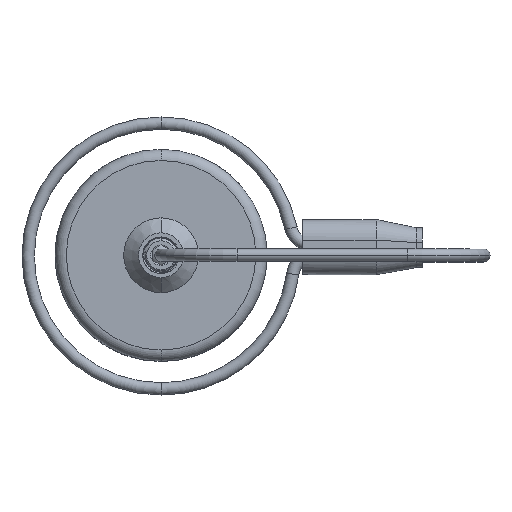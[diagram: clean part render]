
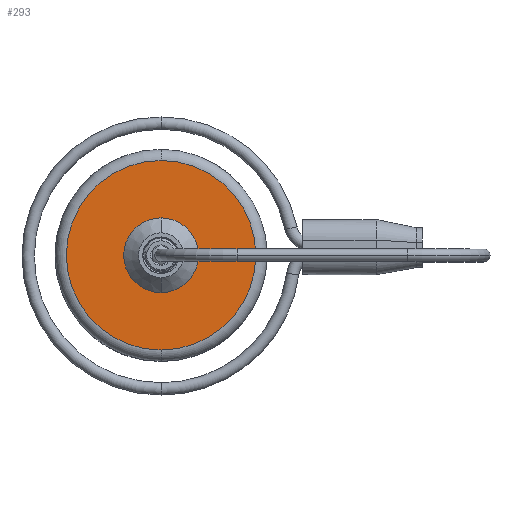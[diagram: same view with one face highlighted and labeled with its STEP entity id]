
A CAD part, top view. The second image highlights one B-rep face of the part: STEP entity #293.
In plain terms, the highlighted planar face has unit normal (0, 0, 1).
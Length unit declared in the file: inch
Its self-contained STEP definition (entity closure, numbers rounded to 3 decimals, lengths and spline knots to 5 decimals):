
#192 = CARTESIAN_POINT ( 'NONE',  ( 0., -0.49902, 1.33465 ) ) ;
#293 = ADVANCED_FACE ( 'NONE', ( #2008, #2980 ), #8279, .F. ) ;
#776 = DIRECTION ( 'NONE',  ( 0., 0., 1. ) ) ;
#1061 = DIRECTION ( 'NONE',  ( 0., 1., 0. ) ) ;
#1128 = EDGE_CURVE ( 'NONE', #10750, #8238, #1816, .T. ) ;
#1169 = ORIENTED_EDGE ( 'NONE', *, *, #3568, .F. ) ;
#1406 = AXIS2_PLACEMENT_3D ( 'NONE', #1807, #13276, #5957 ) ;
#1807 = CARTESIAN_POINT ( 'NONE',  ( 0., 0., 1.33465 ) ) ;
#1816 = CIRCLE ( 'NONE', #1406, 0.19685 ) ;
#1947 = DIRECTION ( 'NONE',  ( 0., 0., -1. ) ) ;
#2008 = FACE_BOUND ( 'NONE', #12124, .T. ) ;
#2101 = VERTEX_POINT ( 'NONE', #192 ) ;
#2111 = DIRECTION ( 'NONE',  ( 0., 0., 1. ) ) ;
#2195 = AXIS2_PLACEMENT_3D ( 'NONE', #5936, #776, #3896 ) ;
#2466 = AXIS2_PLACEMENT_3D ( 'NONE', #7104, #1947, #1061 ) ;
#2611 = ORIENTED_EDGE ( 'NONE', *, *, #6703, .T. ) ;
#2644 = CIRCLE ( 'NONE', #2195, 0.49902 ) ;
#2980 = FACE_OUTER_BOUND ( 'NONE', #7851, .T. ) ;
#3009 = CARTESIAN_POINT ( 'NONE',  ( 0., 0., 1.33465 ) ) ;
#3016 = DIRECTION ( 'NONE',  ( 0., -1., 0. ) ) ;
#3568 = EDGE_CURVE ( 'NONE', #8238, #10750, #12940, .T. ) ;
#3896 = DIRECTION ( 'NONE',  ( 0., -1., 0. ) ) ;
#4021 = CARTESIAN_POINT ( 'NONE',  ( 0., 0., 1.33465 ) ) ;
#4565 = CIRCLE ( 'NONE', #12198, 0.49902 ) ;
#5846 = VERTEX_POINT ( 'NONE', #9749 ) ;
#5936 = CARTESIAN_POINT ( 'NONE',  ( 0., 0., 1.33465 ) ) ;
#5957 = DIRECTION ( 'NONE',  ( 0., -1., 0. ) ) ;
#6703 = EDGE_CURVE ( 'NONE', #2101, #5846, #2644, .T. ) ;
#6951 = ORIENTED_EDGE ( 'NONE', *, *, #1128, .F. ) ;
#7020 = AXIS2_PLACEMENT_3D ( 'NONE', #3009, #2111, #9288 ) ;
#7104 = CARTESIAN_POINT ( 'NONE',  ( 0.19685, 0., 1.33465 ) ) ;
#7851 = EDGE_LOOP ( 'NONE', ( #2611, #11874 ) ) ;
#8238 = VERTEX_POINT ( 'NONE', #9513 ) ;
#8279 = PLANE ( 'NONE',  #2466 ) ;
#8516 = CARTESIAN_POINT ( 'NONE',  ( 0., -0.19685, 1.33465 ) ) ;
#9288 = DIRECTION ( 'NONE',  ( 0., -1., 0. ) ) ;
#9513 = CARTESIAN_POINT ( 'NONE',  ( 0., 0.19685, 1.33465 ) ) ;
#9749 = CARTESIAN_POINT ( 'NONE',  ( 0., 0.49902, 1.33465 ) ) ;
#10750 = VERTEX_POINT ( 'NONE', #8516 ) ;
#11451 = DIRECTION ( 'NONE',  ( 0., 0., 1. ) ) ;
#11874 = ORIENTED_EDGE ( 'NONE', *, *, #12050, .T. ) ;
#12050 = EDGE_CURVE ( 'NONE', #5846, #2101, #4565, .T. ) ;
#12124 = EDGE_LOOP ( 'NONE', ( #1169, #6951 ) ) ;
#12198 = AXIS2_PLACEMENT_3D ( 'NONE', #4021, #11451, #3016 ) ;
#12940 = CIRCLE ( 'NONE', #7020, 0.19685 ) ;
#13276 = DIRECTION ( 'NONE',  ( 0., 0., 1. ) ) ;
